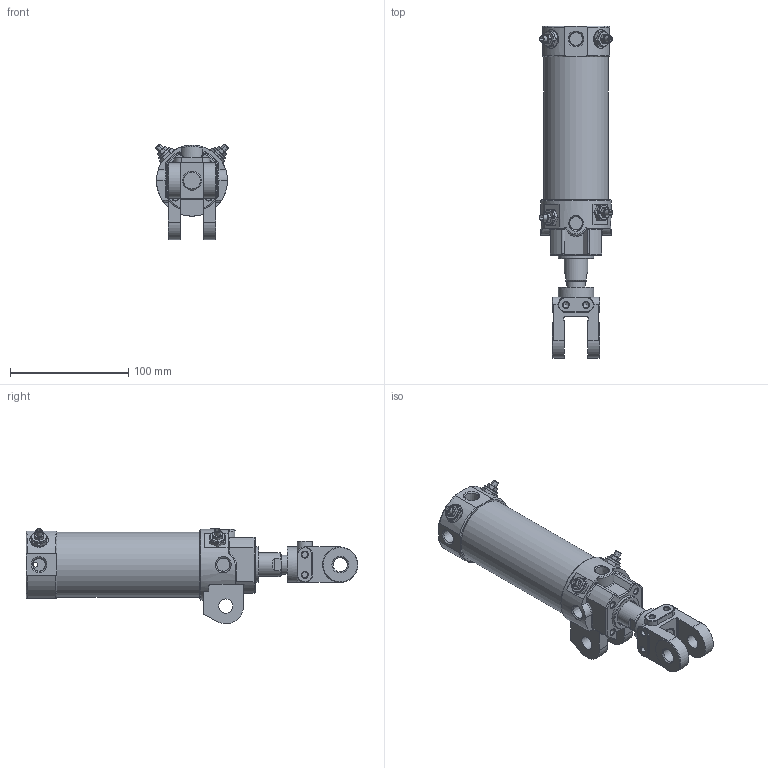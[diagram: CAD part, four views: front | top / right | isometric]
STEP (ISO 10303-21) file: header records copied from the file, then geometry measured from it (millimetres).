
FILE_DESCRIPTION((''),'2;1');
FILE_NAME('I:\3D電子目錄\氣缸\DCK\DCK\DCK-1B-50x75-Y.stp','2008-02-26T14:53:54',('Administrator'),(''),'Autodesk Inventor 11','Autodesk Inventor 11','');
FILE_SCHEMA(('AUTOMOTIVE_DESIGN { 1 0 10303 214 1 1 1 1 }'));
Length unit declared in the file: millimetre
Products named in the file (6): DCK-1B-50-Y; 緩衝針; 緩衝針-1; 緩衝針-201; 緩衝針-3
Assembly tree (8 placements, depth 3):
  DCK-1B-50-Y
    DCK-1B-50-Y
    緩衝針  x4
      緩衝針-1
      緩衝針-201
      緩衝針-3
Bounding box: 61.76 x 281 x 80.87 mm (x, y, z)
Volume: 273313.2 mm3; surface area: 111869.8 mm2
Topology: 15 solids, 15 shells, 647 faces, 1457 edges, 908 vertices
Faces by surface type: plane 240, cylinder 188, cone 143, bspline 40, torus 36
Full cylindrical faces by diameter (mm): 2 x2, 3 x4, 3.8 x2, 4 x6, 4.6 x4, 4.917 x2, 5 x8, 5.1 x4, 5.2 x12, 5.5 x4, 7.25 x1, 7.9 x4, 8 x2, 10.3 x1, 11.3 x1, 12 x6, 12.8 x4, 16 x3, 20 x1, 21 x1, 22 x2, 23 x1, 24.7 x1, 26 x1, 27 x1, 28 x1, 29 x1, 30 x4, 33 x1, 49.5 x1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
Entity records: 14021 total; most frequent: CARTESIAN_POINT 5596, DIRECTION 1727, ORIENTED_EDGE 1528, EDGE_CURVE 764, AXIS2_PLACEMENT_3D 739, EDGE_LOOP 608, VERTEX_POINT 550, FACE_OUTER_BOUND 398
